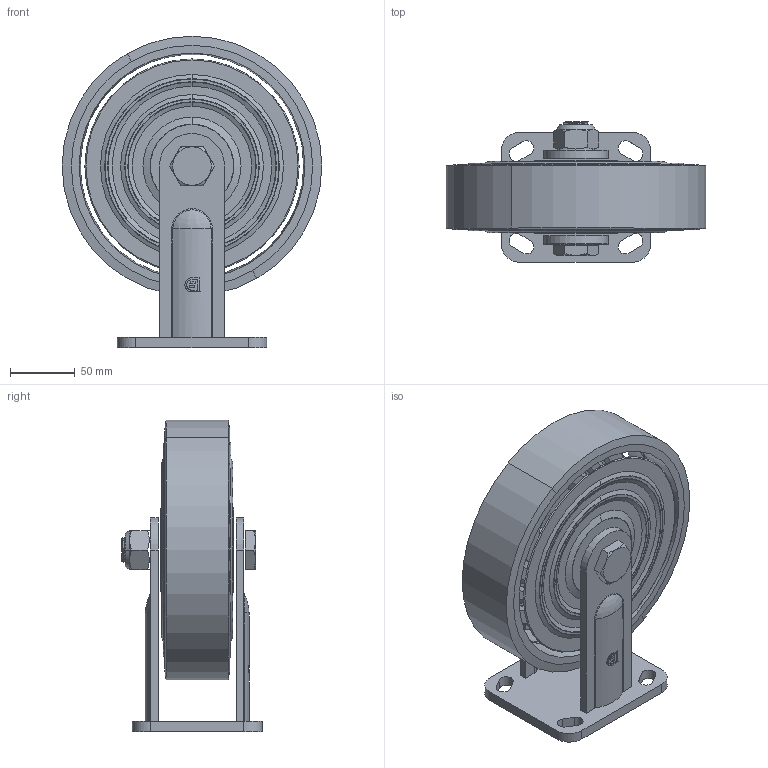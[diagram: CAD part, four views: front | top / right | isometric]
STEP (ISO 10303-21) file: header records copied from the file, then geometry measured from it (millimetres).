
FILE_DESCRIPTION((''),'2;1');
FILE_NAME('PRT0005','2025-05-21T13:53:27',('Administrator'),(''),'CREO PARAMETRIC BY PTC INC, 2022124','CREO PARAMETRIC BY PTC INC, 2022124','');
FILE_SCHEMA(('AP203_CONFIGURATION_CONTROLLED_3D_DESIGN_OF_MECHANICAL_PARTS_AND_ASSEMBLIES_MIM_LF { 1 0 10303 403 2 1 2 }'));
Length unit declared in the file: millimetre
Products named in the file (1): PRT0005
Bounding box: 200 x 108 x 240 mm (x, y, z)
Surface area: 177017.3 mm2 (no closed solid volume)
Topology: 0 solids, 13 shells, 149 faces, 502 edges, 376 vertices
Faces by surface type: plane 51, cone 38, cylinder 30, torus 24, bspline 6
Entity records: 8416 total; most frequent: CARTESIAN_POINT 3078, DIRECTION 855, ORIENTED_EDGE 789, EDGE_CURVE 502, VERTEX_POINT 376, AXIS2_PLACEMENT_3D 352, CIRCLE 199, EDGE_LOOP 180
